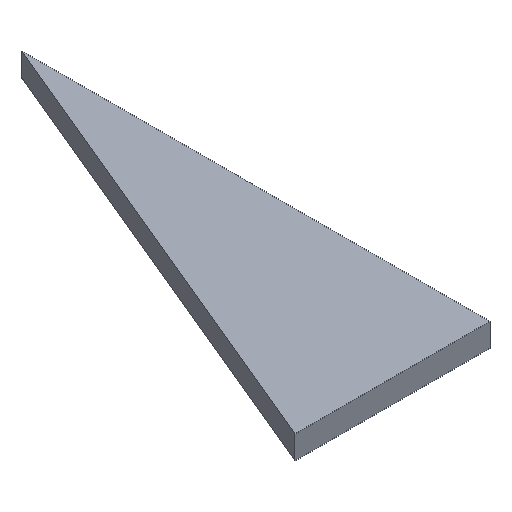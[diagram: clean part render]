
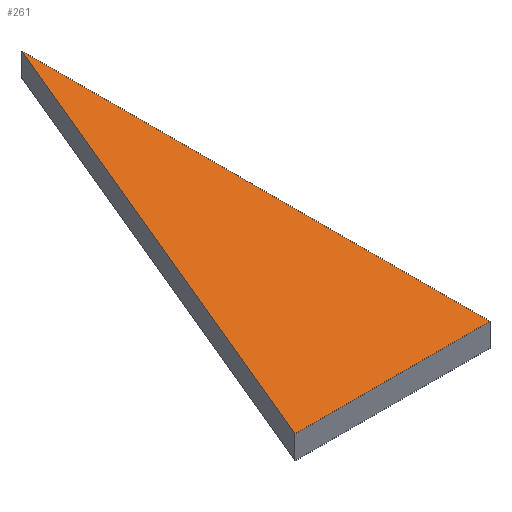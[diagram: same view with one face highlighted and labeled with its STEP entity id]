
A CAD part, isometric view. The second image highlights one B-rep face of the part: STEP entity #261.
In plain terms, the highlighted planar face has unit normal (0, 0, 1).
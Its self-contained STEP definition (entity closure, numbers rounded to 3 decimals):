
#24 = VERTEX_POINT('',#25);
#25 = CARTESIAN_POINT('',(0.,0.,12.));
#32 = PLANE('',#33);
#33 = AXIS2_PLACEMENT_3D('',#34,#35,#36);
#34 = CARTESIAN_POINT('',(0.,0.,0.));
#35 = DIRECTION('',(-0.,1.,-0.));
#36 = DIRECTION('',(1.,0.,0.));
#44 = PLANE('',#45);
#45 = AXIS2_PLACEMENT_3D('',#46,#47,#48);
#46 = CARTESIAN_POINT('',(0.,240.,0.));
#47 = DIRECTION('',(-1.,-0.,-0.));
#48 = DIRECTION('',(0.,1.,0.));
#56 = EDGE_CURVE('',#24,#57,#59,.T.);
#57 = VERTEX_POINT('',#58);
#58 = CARTESIAN_POINT('',(-100.,0.,12.));
#59 = SURFACE_CURVE('',#60,(#64,#71),.PCURVE_S1.);
#60 = LINE('',#61,#62);
#61 = CARTESIAN_POINT('',(0.,0.,12.));
#62 = VECTOR('',#63,1.);
#63 = DIRECTION('',(-1.,-0.,-0.));
#64 = PCURVE('',#32,#65);
#65 = DEFINITIONAL_REPRESENTATION('',(#66),#70);
#66 = LINE('',#67,#68);
#67 = CARTESIAN_POINT('',(-0.,-12.));
#68 = VECTOR('',#69,1.);
#69 = DIRECTION('',(-1.,0.));
#70 = ( GEOMETRIC_REPRESENTATION_CONTEXT(2) 
PARAMETRIC_REPRESENTATION_CONTEXT() REPRESENTATION_CONTEXT('2D SPACE',''
  ) );
#71 = PCURVE('',#72,#77);
#72 = PLANE('',#73);
#73 = AXIS2_PLACEMENT_3D('',#74,#75,#76);
#74 = CARTESIAN_POINT('',(-30.,100.,12.));
#75 = DIRECTION('',(-0.,-0.,1.));
#76 = DIRECTION('',(1.,0.,0.));
#77 = DEFINITIONAL_REPRESENTATION('',(#78),#82);
#78 = LINE('',#79,#80);
#79 = CARTESIAN_POINT('',(30.,-100.));
#80 = VECTOR('',#81,1.);
#81 = DIRECTION('',(-1.,0.));
#82 = ( GEOMETRIC_REPRESENTATION_CONTEXT(2) 
PARAMETRIC_REPRESENTATION_CONTEXT() REPRESENTATION_CONTEXT('2D SPACE',''
  ) );
#100 = PLANE('',#101);
#101 = AXIS2_PLACEMENT_3D('',#102,#103,#104);
#102 = CARTESIAN_POINT('',(-100.,0.,0.));
#103 = DIRECTION('',(0.923,-0.385,0.));
#104 = DIRECTION('',(-0.385,-0.923,0.));
#142 = EDGE_CURVE('',#57,#143,#145,.T.);
#143 = VERTEX_POINT('',#144);
#144 = CARTESIAN_POINT('',(0.,240.,12.));
#145 = SURFACE_CURVE('',#146,(#150,#157),.PCURVE_S1.);
#146 = LINE('',#147,#148);
#147 = CARTESIAN_POINT('',(-100.,0.,12.));
#148 = VECTOR('',#149,1.);
#149 = DIRECTION('',(0.385,0.923,-0.));
#150 = PCURVE('',#100,#151);
#151 = DEFINITIONAL_REPRESENTATION('',(#152),#156);
#152 = LINE('',#153,#154);
#153 = CARTESIAN_POINT('',(-0.,-12.));
#154 = VECTOR('',#155,1.);
#155 = DIRECTION('',(-1.,0.));
#156 = ( GEOMETRIC_REPRESENTATION_CONTEXT(2) 
PARAMETRIC_REPRESENTATION_CONTEXT() REPRESENTATION_CONTEXT('2D SPACE',''
  ) );
#157 = PCURVE('',#72,#158);
#158 = DEFINITIONAL_REPRESENTATION('',(#159),#163);
#159 = LINE('',#160,#161);
#160 = CARTESIAN_POINT('',(-70.,-100.));
#161 = VECTOR('',#162,1.);
#162 = DIRECTION('',(0.385,0.923));
#163 = ( GEOMETRIC_REPRESENTATION_CONTEXT(2) 
PARAMETRIC_REPRESENTATION_CONTEXT() REPRESENTATION_CONTEXT('2D SPACE',''
  ) );
#213 = EDGE_CURVE('',#143,#24,#214,.T.);
#214 = SURFACE_CURVE('',#215,(#219,#226),.PCURVE_S1.);
#215 = LINE('',#216,#217);
#216 = CARTESIAN_POINT('',(0.,240.,12.));
#217 = VECTOR('',#218,1.);
#218 = DIRECTION('',(-0.,-1.,-0.));
#219 = PCURVE('',#44,#220);
#220 = DEFINITIONAL_REPRESENTATION('',(#221),#225);
#221 = LINE('',#222,#223);
#222 = CARTESIAN_POINT('',(-0.,-12.));
#223 = VECTOR('',#224,1.);
#224 = DIRECTION('',(-1.,0.));
#225 = ( GEOMETRIC_REPRESENTATION_CONTEXT(2) 
PARAMETRIC_REPRESENTATION_CONTEXT() REPRESENTATION_CONTEXT('2D SPACE',''
  ) );
#226 = PCURVE('',#72,#227);
#227 = DEFINITIONAL_REPRESENTATION('',(#228),#232);
#228 = LINE('',#229,#230);
#229 = CARTESIAN_POINT('',(30.,140.));
#230 = VECTOR('',#231,1.);
#231 = DIRECTION('',(-0.,-1.));
#232 = ( GEOMETRIC_REPRESENTATION_CONTEXT(2) 
PARAMETRIC_REPRESENTATION_CONTEXT() REPRESENTATION_CONTEXT('2D SPACE',''
  ) );
#261 = ADVANCED_FACE('',(#262),#72,.T.);
#262 = FACE_BOUND('',#263,.F.);
#263 = EDGE_LOOP('',(#264,#265,#266));
#264 = ORIENTED_EDGE('',*,*,#56,.T.);
#265 = ORIENTED_EDGE('',*,*,#142,.T.);
#266 = ORIENTED_EDGE('',*,*,#213,.T.);
